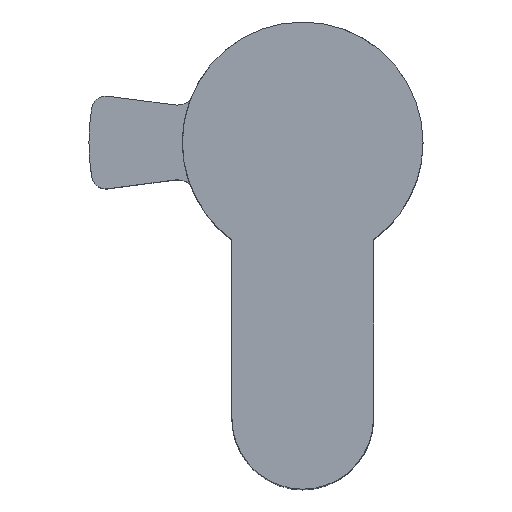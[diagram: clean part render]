
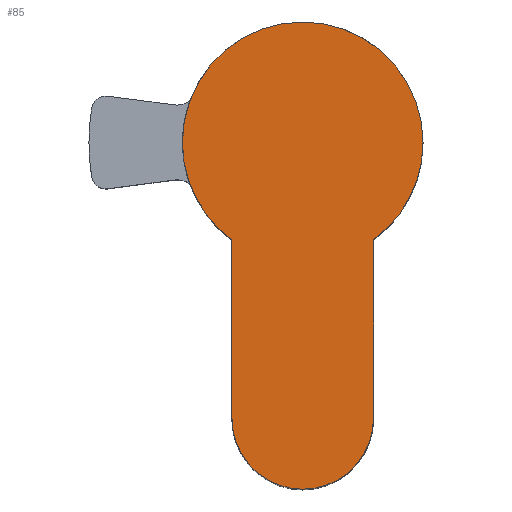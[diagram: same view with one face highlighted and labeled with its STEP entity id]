
A CAD part, top view. The second image highlights one B-rep face of the part: STEP entity #85.
In plain terms, the highlighted planar face has unit normal (0, 0, 1).
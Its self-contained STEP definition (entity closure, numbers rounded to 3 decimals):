
#25 = VECTOR ( 'NONE', #1181, 1000. ) ;
#45 = EDGE_CURVE ( 'NONE', #1249, #1283, #421, .T. ) ;
#57 = LINE ( 'NONE', #683, #806 ) ;
#68 = DIRECTION ( 'NONE',  ( 1., 0., 0. ) ) ;
#84 = CARTESIAN_POINT ( 'NONE',  ( 0., 0., 10. ) ) ;
#85 = ADVANCED_FACE ( 'NONE', ( #670 ), #212, .T. ) ;
#92 = CARTESIAN_POINT ( 'NONE',  ( 0., 0., 10. ) ) ;
#108 = ORIENTED_EDGE ( 'NONE', *, *, #672, .T. ) ;
#150 = DIRECTION ( 'NONE',  ( 0., 0., 1. ) ) ;
#157 = DIRECTION ( 'NONE',  ( 1., 0., 0. ) ) ;
#178 = CIRCLE ( 'NONE', #1273, 8.5 ) ;
#185 = DIRECTION ( 'NONE',  ( 0., -1., 0. ) ) ;
#193 = DIRECTION ( 'NONE',  ( 0., 0., 1. ) ) ;
#212 = PLANE ( 'NONE',  #1421 ) ;
#338 = LINE ( 'NONE', #722, #25 ) ;
#356 = CARTESIAN_POINT ( 'NONE',  ( 5., -19.5, 10. ) ) ;
#421 = CIRCLE ( 'NONE', #933, 8.5 ) ;
#469 = CARTESIAN_POINT ( 'NONE',  ( 0., 0., 10. ) ) ;
#481 = ORIENTED_EDGE ( 'NONE', *, *, #901, .T. ) ;
#485 = CARTESIAN_POINT ( 'NONE',  ( 8.5, 0., 10. ) ) ;
#541 = ORIENTED_EDGE ( 'NONE', *, *, #45, .T. ) ;
#571 = ORIENTED_EDGE ( 'NONE', *, *, #1481, .T. ) ;
#627 = CARTESIAN_POINT ( 'NONE',  ( 0., 0., 10. ) ) ;
#670 = FACE_OUTER_BOUND ( 'NONE', #817, .T. ) ;
#672 = EDGE_CURVE ( 'NONE', #1144, #1478, #1525, .T. ) ;
#683 = CARTESIAN_POINT ( 'NONE',  ( -5., -6.874, 10. ) ) ;
#712 = VERTEX_POINT ( 'NONE', #772 ) ;
#722 = CARTESIAN_POINT ( 'NONE',  ( 5., -19.5, 10. ) ) ;
#736 = ORIENTED_EDGE ( 'NONE', *, *, #831, .T. ) ;
#772 = CARTESIAN_POINT ( 'NONE',  ( -5., -19.5, 10. ) ) ;
#778 = CARTESIAN_POINT ( 'NONE',  ( -8.5, 0., 10. ) ) ;
#784 = AXIS2_PLACEMENT_3D ( 'NONE', #627, #1113, #157 ) ;
#806 = VECTOR ( 'NONE', #185, 1000. ) ;
#817 = EDGE_LOOP ( 'NONE', ( #108, #481, #541, #736, #571, #1373 ) ) ;
#831 = EDGE_CURVE ( 'NONE', #1283, #712, #57, .T. ) ;
#888 = CARTESIAN_POINT ( 'NONE',  ( 0., -19.5, 10. ) ) ;
#901 = EDGE_CURVE ( 'NONE', #1478, #1249, #178, .T. ) ;
#919 = VERTEX_POINT ( 'NONE', #356 ) ;
#933 = AXIS2_PLACEMENT_3D ( 'NONE', #84, #193, #1050 ) ;
#1039 = AXIS2_PLACEMENT_3D ( 'NONE', #888, #150, #1362 ) ;
#1050 = DIRECTION ( 'NONE',  ( 1., 0., 0. ) ) ;
#1086 = DIRECTION ( 'NONE',  ( 0., 0., 1. ) ) ;
#1090 = CIRCLE ( 'NONE', #1039, 5. ) ;
#1110 = CARTESIAN_POINT ( 'NONE',  ( 5., -6.874, 10. ) ) ;
#1113 = DIRECTION ( 'NONE',  ( 0., 0., 1. ) ) ;
#1144 = VERTEX_POINT ( 'NONE', #1110 ) ;
#1156 = DIRECTION ( 'NONE',  ( 0., 0., 1. ) ) ;
#1181 = DIRECTION ( 'NONE',  ( 0., 1., 0. ) ) ;
#1200 = CARTESIAN_POINT ( 'NONE',  ( -5., -6.874, 10. ) ) ;
#1249 = VERTEX_POINT ( 'NONE', #778 ) ;
#1273 = AXIS2_PLACEMENT_3D ( 'NONE', #469, #1086, #1571 ) ;
#1283 = VERTEX_POINT ( 'NONE', #1200 ) ;
#1360 = EDGE_CURVE ( 'NONE', #919, #1144, #338, .T. ) ;
#1362 = DIRECTION ( 'NONE',  ( 1., 0., 0. ) ) ;
#1373 = ORIENTED_EDGE ( 'NONE', *, *, #1360, .T. ) ;
#1421 = AXIS2_PLACEMENT_3D ( 'NONE', #92, #1156, #68 ) ;
#1478 = VERTEX_POINT ( 'NONE', #485 ) ;
#1481 = EDGE_CURVE ( 'NONE', #712, #919, #1090, .T. ) ;
#1525 = CIRCLE ( 'NONE', #784, 8.5 ) ;
#1571 = DIRECTION ( 'NONE',  ( 1., 0., 0. ) ) ;
